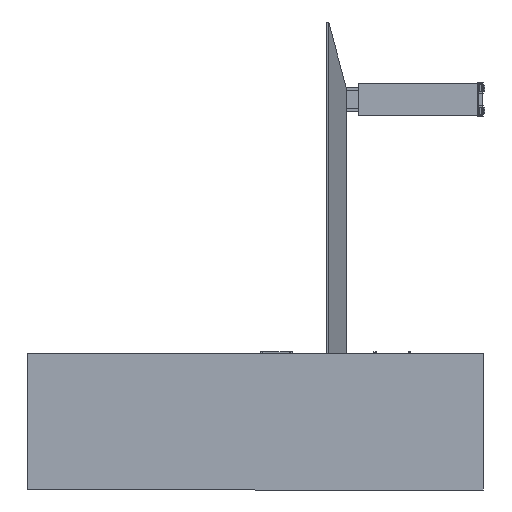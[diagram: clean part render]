
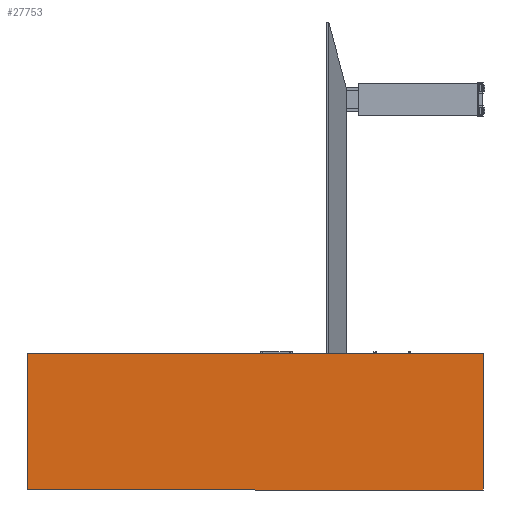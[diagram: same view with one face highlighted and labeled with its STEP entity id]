
A CAD part, left-side view. The second image highlights one B-rep face of the part: STEP entity #27753.
In plain terms, the highlighted planar face has unit normal (-1, 0, 0).
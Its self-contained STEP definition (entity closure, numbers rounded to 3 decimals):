
#4426=FACE_OUTER_BOUND('',#5973,.T.);
#5973=EDGE_LOOP('',(#19484,#19485,#19486,#19487));
#7720=LINE('',#41506,#10329);
#7724=LINE('',#41513,#10333);
#7727=LINE('',#41520,#10336);
#7729=LINE('',#41523,#10338);
#10329=VECTOR('',#33084,0.394);
#10333=VECTOR('',#33090,0.394);
#10336=VECTOR('',#33097,0.394);
#10338=VECTOR('',#33101,0.394);
#12858=VERTEX_POINT('',#41503);
#12859=VERTEX_POINT('',#41505);
#12861=VERTEX_POINT('',#41511);
#12863=VERTEX_POINT('',#41519);
#15387=EDGE_CURVE('',#12858,#12859,#7720,.T.);
#15391=EDGE_CURVE('',#12861,#12858,#7724,.T.);
#15394=EDGE_CURVE('',#12859,#12863,#7727,.T.);
#15396=EDGE_CURVE('',#12863,#12861,#7729,.T.);
#19484=ORIENTED_EDGE('',*,*,#15396,.F.);
#19485=ORIENTED_EDGE('',*,*,#15394,.F.);
#19486=ORIENTED_EDGE('',*,*,#15387,.F.);
#19487=ORIENTED_EDGE('',*,*,#15391,.F.);
#26783=PLANE('',#29975);
#27753=ADVANCED_FACE('',(#4426),#26783,.F.);
#29975=AXIS2_PLACEMENT_3D('',#41524,#33102,#33103);
#33084=DIRECTION('',(0.,-1.,0.));
#33090=DIRECTION('',(0.,0.,1.));
#33097=DIRECTION('',(0.,0.,-1.));
#33101=DIRECTION('',(0.,1.,0.));
#33102=DIRECTION('center_axis',(1.,0.,0.));
#33103=DIRECTION('ref_axis',(0.,0.,-1.));
#41503=CARTESIAN_POINT('',(0.,83.75,0.));
#41505=CARTESIAN_POINT('',(0.,0.,0.));
#41506=CARTESIAN_POINT('',(0.,83.75,0.));
#41511=CARTESIAN_POINT('',(0.,83.75,-25.));
#41513=CARTESIAN_POINT('',(0.,83.75,-25.));
#41519=CARTESIAN_POINT('',(0.,0.,-25.));
#41520=CARTESIAN_POINT('',(0.,0.,0.));
#41523=CARTESIAN_POINT('',(0.,0.,-25.));
#41524=CARTESIAN_POINT('Origin',(0.,41.875,-12.5));
